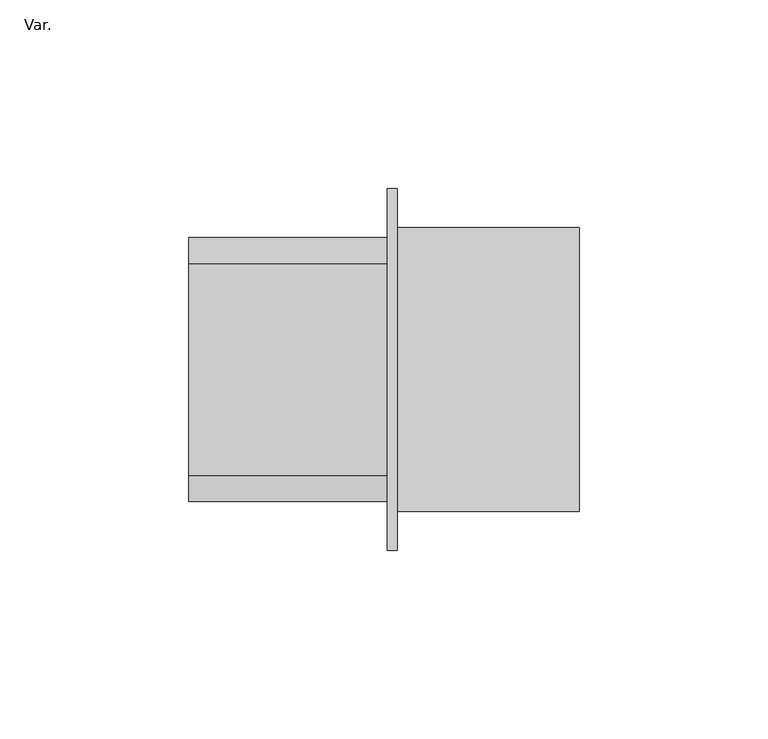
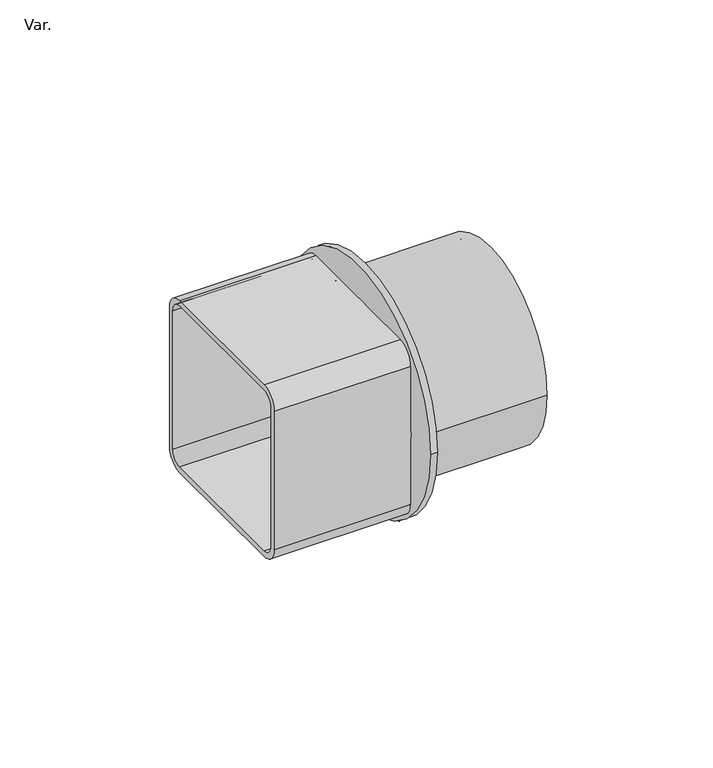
"""IFC4 building model written with IfcOpenShell, lengths in millimetres: pipe fitting geometry, PavcoWavin_UnionesDeTuberia_Bajante Tradicional_Adaptador : Var.."""

from ifc_helpers import new_model, si_unit, point, frame, frame_2d, origin, origin_2d, place, context, project, spatial, polyline, circle_curve, trimmed, segment, composite_curve, outline, extrude, source, transform, mapped, element, save


def var_d3a71fb1(model_context):
    return source(origin(), model_context, "Body", "SweptSolid", [
        extrude(outline(composite_curve([segment(trimmed(circle_curve(origin_2d(), 37.6), [point((-37.6, 0.0))], [point((37.6, 0.0))], False, "CARTESIAN"), True, "CONTINUOUS"), segment(trimmed(circle_curve(origin_2d(), 37.6), [point((37.6, 0.0))], [point((-37.6, 0.0))], False, "CARTESIAN"), True, "CONTINUOUS")], self_intersect=False), holes=[composite_curve([segment(trimmed(circle_curve(origin_2d(), 34.85), [point((-34.85, 0.0))], [point((34.85, 0.0))], True, "CARTESIAN"), True, "CONTINUOUS"), segment(trimmed(circle_curve(origin_2d(), 34.85), [point((34.85, 0.0))], [point((-34.85, 0.0))], True, "CARTESIAN"), True, "CONTINUOUS")], self_intersect=False)]), frame((55.35, 0.0, 0.0), z_axis=(1.0, 0.0, 0.0), x_axis=(0.0, 1.0, 0.0)), (0.0, 0.0, 1.0), 48.25),
        extrude(outline(composite_curve([segment(trimmed(circle_curve(origin_2d(), 48.0), [point((-48.0, 0.0))], [point((48.0, 0.0))], False, "CARTESIAN"), True, "CONTINUOUS"), segment(trimmed(circle_curve(origin_2d(), 48.0), [point((48.0, 0.0))], [point((-48.0, 0.0))], False, "CARTESIAN"), True, "CONTINUOUS")], self_intersect=False), holes=[composite_curve([segment(trimmed(circle_curve(origin_2d(), 34.85), [point((-34.85, 0.0))], [point((34.85, 0.0))], True, "CARTESIAN"), True, "CONTINUOUS"), segment(trimmed(circle_curve(origin_2d(), 34.85), [point((34.85, 0.0))], [point((-34.85, 0.0))], True, "CARTESIAN"), True, "CONTINUOUS")], self_intersect=False)]), frame((52.7, 0.0, 0.0), z_axis=(1.0, 0.0, 0.0), x_axis=(0.0, 1.0, 0.0)), (0.0, 0.0, 1.0), 2.65),
        extrude(outline(composite_curve([segment(trimmed(circle_curve(frame_2d((28.145, -28.145)), 6.81), [point((34.955, -28.145))], [point((28.145, -34.955))], False, "CARTESIAN"), True, "CONTINUOUS"), segment(polyline([(28.145, -34.955), (-28.145, -34.955)]), True, "CONTINUOUS"), segment(trimmed(circle_curve(frame_2d((-28.145, -28.145)), 6.81), [point((-28.145, -34.955))], [point((-34.955, -28.145))], False, "CARTESIAN"), True, "CONTINUOUS"), segment(polyline([(-34.955, -28.145), (-34.955, 28.145)]), True, "CONTINUOUS"), segment(trimmed(circle_curve(frame_2d((-28.145, 28.145)), 6.81), [point((-34.955, 28.145))], [point((-28.145, 34.955))], False, "CARTESIAN"), True, "CONTINUOUS"), segment(polyline([(-28.145, 34.955), (28.145, 34.955)]), True, "CONTINUOUS"), segment(trimmed(circle_curve(frame_2d((28.145, 28.145)), 6.81), [point((28.145, 34.955))], [point((34.955, 28.145))], False, "CARTESIAN"), True, "CONTINUOUS"), segment(polyline([(34.955, 28.145), (34.955, -28.145)]), True, "CONTINUOUS")], self_intersect=False), holes=[composite_curve([segment(trimmed(circle_curve(frame_2d((-28.145, 28.145)), 4.52), [point((-28.145, 32.665))], [point((-32.665, 28.145))], True, "CARTESIAN"), True, "CONTINUOUS"), segment(polyline([(-32.665, 28.145), (-32.665, -28.145)]), True, "CONTINUOUS"), segment(trimmed(circle_curve(frame_2d((-28.145, -28.145)), 4.52), [point((-32.665, -28.145))], [point((-28.145, -32.665))], True, "CARTESIAN"), True, "CONTINUOUS"), segment(polyline([(-28.145, -32.665), (28.145, -32.665)]), True, "CONTINUOUS"), segment(trimmed(circle_curve(frame_2d((28.145, -28.145)), 4.52), [point((28.145, -32.665))], [point((32.665, -28.145))], True, "CARTESIAN"), True, "CONTINUOUS"), segment(polyline([(32.665, -28.145), (32.665, 28.145)]), True, "CONTINUOUS"), segment(trimmed(circle_curve(frame_2d((28.145, 28.145)), 4.52), [point((32.665, 28.145))], [point((28.145, 32.665))], True, "CARTESIAN"), True, "CONTINUOUS"), segment(polyline([(28.145, 32.665), (-28.145, 32.665)]), True, "CONTINUOUS")], self_intersect=False)]), frame((0.0, 0.0, 0.0), z_axis=(1.0, 0.0, 0.0), x_axis=(0.0, 1.0, 0.0)), (0.0, 0.0, 1.0), 52.7),
    ])


if __name__ == "__main__":
    model = new_model("IFC4")
    model_context = context("Model", 3, world=origin())
    ifc_project = project(units=[si_unit("LENGTHUNIT", "METRE", prefix="MILLI")], contexts=[model_context])
    site = spatial("IfcSite", under=ifc_project)
    building = spatial("IfcBuilding", under=site)
    placement = place(None, origin())
    var_shape = var_d3a71fb1(model_context)
    element("IfcPipeFitting", 1, ObjectType="PavcoWavin_UnionesDeTuberia_Bajante Tradicional_Adaptador : Var.", at=placement, inside=building, context=model_context, shape_type="MappedRepresentation", body=[
        mapped(var_shape, transform((0.0, 0.0, 0.0), x_axis=(1.0, 0.0, 0.0), y_axis=(0.0, 1.0, 0.0), z_axis=(0.0, 0.0, 1.0))),
    ])
    save(model, "model.ifc")
